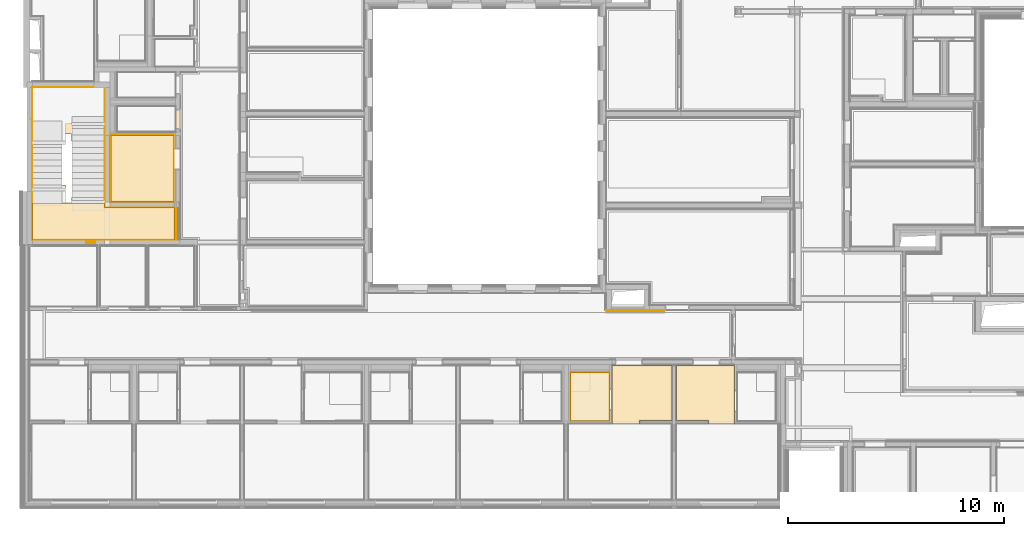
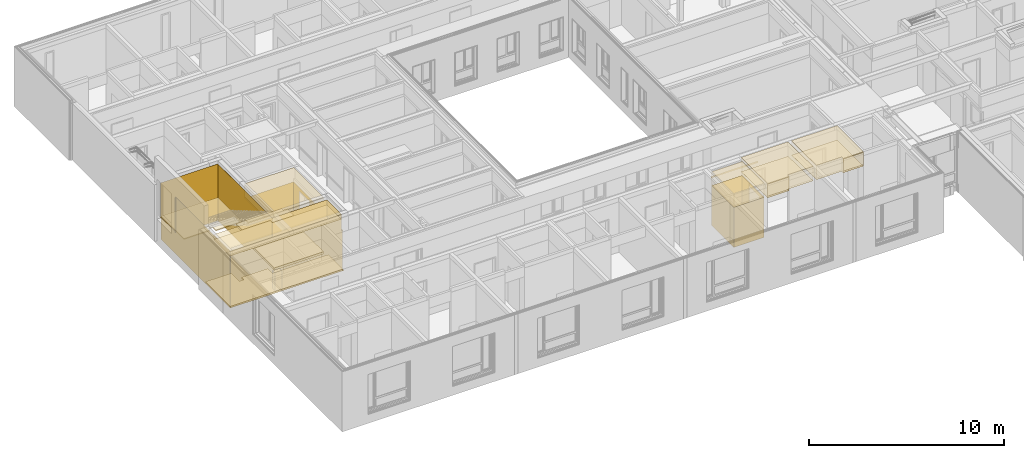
# One storey, part 158 of 222: 28 coverings.
"""IFC4 building model written with IfcOpenShell, lengths in metres."""

from ifc_helpers import new_model, entity, si_unit, converted_unit, derived_unit, frame, frame_2d, origin, origin_with_axes, place, context, subcontext, project, spatial, polyline, rectangle, outline, extrude, material, layer, layer_set, layer_usage, element, save


model = new_model("IFC4")

# Units and contexts
model_context = context("Model", 3, precision=1e-05, world=origin())
body_context = subcontext(model_context, "Body", "Model", "MODEL_VIEW")
ifc_project = project(units=[si_unit("LENGTHUNIT", "METRE"), si_unit("AREAUNIT", "SQUARE_METRE"), si_unit("VOLUMEUNIT", "CUBIC_METRE"), si_unit("MASSUNIT", "GRAM", prefix="KILO"), converted_unit("PLANEANGLEUNIT", "DEGREE", entity("IfcPlaneAngleMeasure", 0.0174532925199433), si_unit("PLANEANGLEUNIT", "RADIAN"), dimensions=[0, 0, 0, 0, 0, 0, 0]), derived_unit("THERMALTRANSMITTANCEUNIT", [(si_unit("POWERUNIT", "WATT"), 1), (si_unit("THERMODYNAMICTEMPERATUREUNIT", "KELVIN"), -1), (si_unit("LENGTHUNIT", "METRE"), -2)]), derived_unit("VOLUMETRICFLOWRATEUNIT", [(si_unit("LENGTHUNIT", "METRE"), 3), (converted_unit("TIMEUNIT", "hour", entity("IfcTimeMeasure", 3600.0), si_unit("TIMEUNIT", "SECOND"), dimensions=[0, 0, 1, 0, 0, 0, 0]), -1), (si_unit("LENGTHUNIT", "METRE"), -1)])], contexts=[model_context])

# Site, building, storey, space
site_placement = place(None, origin())
site = spatial("IfcSite", under=ifc_project, at=site_placement, Name="Psychiatrie Neubau Wunstorf", CompositionType="ELEMENT")
building_placement = place(site_placement, origin())
building = spatial("IfcBuilding", under=site, at=building_placement, Name="Neubau H2 Stationsgebäude", CompositionType="ELEMENT")
storey_placement = place(building_placement, frame((0.0, 0.0, 3.6)))
storey = spatial("IfcBuildingStorey", under=building, at=storey_placement, Name="H2 Ebene +1", CompositionType="ELEMENT", Elevation=3.6)
space_1_placement = place(storey_placement, frame((0.279999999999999, 9.8749998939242, 0.0)))
space_1 = spatial("IfcSpace", under=storey, at=space_1_placement, Name="WUN-H2-E01-T02", CompositionType="ELEMENT")

# Coverings
ifc_material_1 = material(Name="Fl12")
ifc_layer_1 = layer(ifc_material_1, 0.06)
ifc_layer_set_1 = layer_set([ifc_layer_1])
ifc_layer_usage_1 = layer_usage(ifc_layer_set_1, "AXIS3", "POSITIVE", 0.0)
covering_1_placement = place(space_1_placement, frame((0.0, 4.57999999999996, 1.405)))
element("IfcCovering", 1, at=covering_1_placement, inside=space_1, material=ifc_layer_usage_1, Name="Fliesen Großformat", PredefinedType="FLOORING", context=body_context, shape_type="SweptSolid", body=[
    extrude(outline(polyline([(3.35, 0.0), (3.35, 2.49000000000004), (0.0, 2.49000000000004), (0.0, 0.149974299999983), (1.545, 0.149974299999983), (1.545, 0.325), (1.805, 0.325), (1.805, 0.0), (3.35, 0.0)])), origin_with_axes(), (0.0, 0.0, 1.0), 0.06),
])
ifc_material_2 = material(Name="Fl12")
ifc_layer_2 = layer(ifc_material_2, 0.1)
ifc_layer_set_2 = layer_set([ifc_layer_2])
ifc_layer_usage_2 = layer_usage(ifc_layer_set_2, "AXIS3", "POSITIVE", 0.0)
covering_2_placement = place(space_1_placement, frame((0.0, -0.0300000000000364, 0.0)))
element("IfcCovering", 2, at=covering_2_placement, inside=space_1, material=ifc_layer_usage_2, Name="Fliesen Großformat", PredefinedType="FLOORING", context=body_context, shape_type="SweptSolid", body=[
    extrude(outline(polyline([(0.0, 0.03), (0.07, 0.03), (0.07, 0.0), (0.0849995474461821, 0.0), (0.0849995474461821, 1.56), (0.07, 1.56), (0.07, 1.53), (0.0, 1.53), (0.0, 0.03)])), frame((6.58099923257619, 0.0, 0.0), z_axis=(0.0, 0.0, 1.0), x_axis=(1.0, 0.0, 0.0)), (0.0, 0.0, 1.0), 0.1),
    extrude(outline(polyline([(6.5809987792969, 1.5), (3.35, 1.5), (3.35, 1.96999999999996), (1.805, 1.96999999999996), (1.805, 1.72499999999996), (1.545, 1.72499999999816), (1.545, 2.54997429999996), (0.0, 2.54997429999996), (0.0, 0.0), (6.5809987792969, 0.0), (6.5809987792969, 1.5)])), frame((0.0, 0.0300000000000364, 0.0), z_axis=(0.0, 0.0, 1.0), x_axis=(1.0, 0.0, 0.0)), (0.0, 0.0, 1.0), 0.1),
])
ifc_material_3 = material(Name="03")
ifc_layer_3 = layer(ifc_material_3, 0.001)
ifc_layer_set_3 = layer_set([ifc_layer_3])
ifc_layer_usage_3 = layer_usage(ifc_layer_set_3, "AXIS3", "POSITIVE", 0.0)
covering_3_placement = place(space_1_placement, frame((-0.035, -0.250000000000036, 0.0)))
element("IfcCovering", 3, at=covering_3_placement, inside=space_1, material=ifc_layer_usage_3, Name="Sichtbetonklasse SB3", PredefinedType="CLADDING", context=body_context, shape_type="SweptSolid", body=[
    extrude(rectangle(XDim=3.55, YDim=3.2309987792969, at=frame_2d((-1.61549938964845, -1.775), x_axis=(0.0, -1.0))), frame((3.385, 1.75000000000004, 0.0), z_axis=(0.0, -1.0, 0.0), x_axis=(-1.0, 0.0, 0.0)), (0.0, 0.0, 1.0), 0.001),
    extrude(rectangle(XDim=3.55, YDim=5.57, at=frame_2d((-2.785, -1.775), x_axis=(0.0, -1.0))), frame((3.385, 7.32000000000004, 0.0), z_axis=(-1.0, 0.0, 0.0), x_axis=(0.0, 1.0, 0.0)), (0.0, 0.0, 1.0), 0.001),
    extrude(rectangle(XDim=3.55, YDim=3.35, at=frame_2d((-1.675, -1.775), x_axis=(0.0, -1.0))), frame((0.0349999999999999, 7.32000000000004, 0.0), z_axis=(0.0, -1.0, 0.0), x_axis=(-1.0, 0.0, 0.0)), (0.0, 0.0, 1.0), 0.001),
    extrude(outline(polyline([(7.07, 3.55), (7.07, 0.0), (1.50000000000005, 0.0), (1.50000000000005, 2.19), (0.0, 2.19), (0.0, 3.55), (7.07, 3.55)])), frame((0.0350000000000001, 7.32000000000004, 3.55), z_axis=(1.0, -3.76680189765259e-17, 8.92985215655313e-17), x_axis=(-3.76680189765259e-17, -1.0, 0.0)), (0.0, 0.0, 1.0), 0.001),
    extrude(rectangle(XDim=1.12, YDim=0.42, at=frame_2d((-0.21, -0.56), x_axis=(0.0, -1.0))), frame((2.955, 0.0, 0.35), z_axis=(0.0, 1.0, 0.0), x_axis=(1.0, 0.0, 0.0)), (0.0, 0.0, 1.0), 0.001),
    extrude(outline(polyline([(6.5809987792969, 3.55), (6.5809987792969, 0.0), (0.0, 0.0), (0.0, 3.55), (6.5809987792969, 3.55)]), holes=[polyline([(2.92, 3.2), (2.5, 3.2), (2.5, 2.08), (2.92, 2.08), (2.92, 3.2)])]), frame((0.0350000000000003, 0.250000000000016, 3.55), z_axis=(-8.51600136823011e-16, 1.0, 0.0), x_axis=(1.0, 8.51600136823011e-16, 0.0)), (0.0, 0.0, 1.0), 0.001),
    extrude(rectangle(XDim=1.05, YDim=1.5, at=frame_2d((-0.75, -0.525), x_axis=(0.0, -1.0))), frame((6.6159987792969, 1.75000000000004, 2.5), z_axis=(-1.0, 3.03164900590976e-16, -4.33092715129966e-16), x_axis=(3.03164900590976e-16, 1.0, 0.0)), (0.0, 0.0, 1.0), 0.001),
    extrude(rectangle(XDim=2.19, YDim=0.0350000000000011, at=frame_2d((-0.0175000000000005, -1.095), x_axis=(0.0, -1.0))), frame((0.0, 7.32, 1.36), z_axis=(-6.75624635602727e-13, -1.0, 1.07976539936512e-14), x_axis=(-1.0, 6.75624635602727e-13, 0.0)), (0.0, 0.0, 1.0), 0.001),
    extrude(rectangle(XDim=2.19, YDim=0.035000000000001, at=frame_2d((-0.0175000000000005, -1.095), x_axis=(0.0, -1.0))), frame((0.035000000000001, 5.81999999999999, 1.36), z_axis=(0.0, 1.0, 0.0), x_axis=(1.0, 0.0, 0.0)), (0.0, 0.0, 1.0), 0.001),
    extrude(rectangle(XDim=1.12, YDim=0.25, at=frame_2d((-0.125, -0.56), x_axis=(0.0, -1.0))), frame((2.535, 0.0, 0.35), z_axis=(1.0, 0.0, 0.0), x_axis=(0.0, -1.0, 0.0)), (0.0, 0.0, 1.0), 0.001),
    extrude(rectangle(XDim=0.42, YDim=0.25, at=frame_2d((-0.21, 0.125), x_axis=(-1.0, 0.0))), frame((2.955, 0.25, 1.47), z_axis=(0.0, 0.0, -1.0), x_axis=(1.0, 0.0, 0.0)), (0.0, 0.0, 1.0), 0.001),
    extrude(rectangle(XDim=1.12, YDim=0.25, at=frame_2d((-0.125, -0.56), x_axis=(0.0, -1.0))), frame((2.955, 0.25, 0.35), z_axis=(-1.0, 0.0, 0.0), x_axis=(0.0, 1.0, 0.0)), (0.0, 0.0, 1.0), 0.001),
    extrude(rectangle(XDim=1.5, YDim=0.07, at=frame_2d((-0.035, -0.75), x_axis=(0.0, -1.0))), frame((6.68599923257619, 0.25, 2.5), z_axis=(0.0, 0.0, -1.0), x_axis=(1.0, 0.0, 0.0)), (0.0, 0.0, 1.0), 0.001),
    extrude(rectangle(XDim=2.5, YDim=0.07, at=frame_2d((-0.035, -1.25), x_axis=(0.0, -1.0))), frame((6.68599923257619, 0.25, 0.0), z_axis=(0.0, 1.0, 0.0), x_axis=(1.0, 0.0, 0.0)), (0.0, 0.0, 1.0), 0.001),
    extrude(rectangle(XDim=2.5, YDim=0.07, at=frame_2d((-0.035, -1.25), x_axis=(0.0, -1.0))), frame((6.61599923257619, 1.75, 0.0), z_axis=(0.0, -1.0, 0.0), x_axis=(-1.0, 0.0, 0.0)), (0.0, 0.0, 1.0), 0.001),
    extrude(rectangle(XDim=0.03, YDim=1.5, at=frame_2d((-0.750000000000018, -0.015), x_axis=(-1.2126596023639e-12, -1.0))), frame((6.68599923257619, 0.25, 2.5), z_axis=(1.0, 3.03164900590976e-16, 1.51582450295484e-14), x_axis=(3.03164900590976e-16, -1.0, 0.0)), (0.0, 0.0, 1.0), 0.001),
    extrude(rectangle(XDim=0.0149995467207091, YDim=1.5, at=frame_2d((0.00749977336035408, -0.75), x_axis=(1.0, 0.0))), frame((6.68599923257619, 0.250000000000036, 2.53), z_axis=(0.0, 0.0, -1.0), x_axis=(1.0, 0.0, 0.0)), (0.0, 0.0, 1.0), 0.001),
])
ifc_material_4 = material(Name="47")
ifc_layer_4 = layer(ifc_material_4, 0.001)
ifc_layer_set_4 = layer_set([ifc_layer_4])
ifc_layer_usage_4 = layer_usage(ifc_layer_set_4, "AXIS3", "POSITIVE", 0.0)
covering_4_placement = place(space_1_placement, frame((-0.035, -0.250000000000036, 0.0)))
element("IfcCovering", 4, at=covering_4_placement, inside=space_1, material=ifc_layer_usage_4, Name="Sichtbetonklasse SB3", PredefinedType="CLADDING", context=body_context, shape_type="SweptSolid", body=[
    extrude(rectangle(XDim=3.55, YDim=3.2309987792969, at=frame_2d((-1.61549938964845, -1.775), x_axis=(0.0, -1.0))), frame((3.385, 1.74900000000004, 0.0), z_axis=(0.0, -1.0, 0.0), x_axis=(-1.0, 0.0, 0.0)), (0.0, 0.0, 1.0), 0.001),
    extrude(rectangle(XDim=3.55, YDim=5.57, at=frame_2d((-2.785, -1.775), x_axis=(0.0, -1.0))), frame((3.384, 7.32000000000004, 0.0), z_axis=(-1.0, 0.0, 0.0), x_axis=(0.0, 1.0, 0.0)), (0.0, 0.0, 1.0), 0.001),
    extrude(rectangle(XDim=3.55, YDim=3.35, at=frame_2d((-1.675, -1.775), x_axis=(0.0, -1.0))), frame((0.0349999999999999, 7.31900000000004, 0.0), z_axis=(0.0, -1.0, 0.0), x_axis=(-1.0, 0.0, 0.0)), (0.0, 0.0, 1.0), 0.001),
    extrude(outline(polyline([(7.07, 3.55), (7.07, 0.0), (1.50000000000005, 0.0), (1.50000000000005, 2.19), (0.0, 2.19), (0.0, 3.55), (7.07, 3.55)])), frame((0.0360000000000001, 7.32000000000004, 3.55), z_axis=(1.0, -3.76680189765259e-17, 8.92985215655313e-17), x_axis=(-3.76680189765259e-17, -1.0, 0.0)), (0.0, 0.0, 1.0), 0.001),
    extrude(rectangle(XDim=1.12, YDim=0.42, at=frame_2d((-0.21, -0.56), x_axis=(0.0, -1.0))), frame((2.955, 0.001, 0.35), z_axis=(0.0, 1.0, 0.0), x_axis=(1.0, 0.0, 0.0)), (0.0, 0.0, 1.0), 0.001),
    extrude(outline(polyline([(6.5809987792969, 3.55), (6.5809987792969, 0.0), (0.0, 0.0), (0.0, 3.55), (6.5809987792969, 3.55)]), holes=[polyline([(2.92, 3.2), (2.5, 3.2), (2.5, 2.08), (2.92, 2.08), (2.92, 3.2)])]), frame((0.0350000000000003, 0.251000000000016, 3.55), z_axis=(-8.51600136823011e-16, 1.0, 0.0), x_axis=(1.0, 8.51600136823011e-16, 0.0)), (0.0, 0.0, 1.0), 0.001),
    extrude(rectangle(XDim=1.05, YDim=1.5, at=frame_2d((-0.75, -0.525), x_axis=(0.0, -1.0))), frame((6.6149987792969, 1.75000000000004, 2.5), z_axis=(-1.0, 3.03164900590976e-16, -4.33092715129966e-16), x_axis=(3.03164900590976e-16, 1.0, 0.0)), (0.0, 0.0, 1.0), 0.001),
    extrude(rectangle(XDim=2.19, YDim=0.0350000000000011, at=frame_2d((-0.0175000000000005, -1.095), x_axis=(0.0, -1.0))), frame((0.0, 7.319, 1.36), z_axis=(-6.75624635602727e-13, -1.0, 1.07976539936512e-14), x_axis=(-1.0, 6.75624635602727e-13, 0.0)), (0.0, 0.0, 1.0), 0.001),
    extrude(rectangle(XDim=2.19, YDim=0.035000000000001, at=frame_2d((-0.0175000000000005, -1.095), x_axis=(0.0, -1.0))), frame((0.035000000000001, 5.82099999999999, 1.36), z_axis=(0.0, 1.0, 0.0), x_axis=(1.0, 0.0, 0.0)), (0.0, 0.0, 1.0), 0.001),
    extrude(rectangle(XDim=1.12, YDim=0.25, at=frame_2d((-0.125, -0.56), x_axis=(0.0, -1.0))), frame((2.536, 0.0, 0.35), z_axis=(1.0, 0.0, 0.0), x_axis=(0.0, -1.0, 0.0)), (0.0, 0.0, 1.0), 0.001),
    extrude(rectangle(XDim=0.42, YDim=0.25, at=frame_2d((-0.21, 0.125), x_axis=(-1.0, 0.0))), frame((2.955, 0.25, 1.469), z_axis=(0.0, 0.0, -1.0), x_axis=(1.0, 0.0, 0.0)), (0.0, 0.0, 1.0), 0.001),
    extrude(rectangle(XDim=1.12, YDim=0.25, at=frame_2d((-0.125, -0.56), x_axis=(0.0, -1.0))), frame((2.954, 0.25, 0.35), z_axis=(-1.0, 0.0, 0.0), x_axis=(0.0, 1.0, 0.0)), (0.0, 0.0, 1.0), 0.001),
    extrude(rectangle(XDim=1.5, YDim=0.07, at=frame_2d((-0.035, -0.75), x_axis=(0.0, -1.0))), frame((6.68599923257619, 0.25, 2.499), z_axis=(0.0, 0.0, -1.0), x_axis=(1.0, 0.0, 0.0)), (0.0, 0.0, 1.0), 0.001),
    extrude(rectangle(XDim=2.5, YDim=0.07, at=frame_2d((-0.035, -1.25), x_axis=(0.0, -1.0))), frame((6.68599923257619, 0.251, 0.0), z_axis=(0.0, 1.0, 0.0), x_axis=(1.0, 0.0, 0.0)), (0.0, 0.0, 1.0), 0.001),
    extrude(rectangle(XDim=2.5, YDim=0.07, at=frame_2d((-0.035, -1.25), x_axis=(0.0, -1.0))), frame((6.61599923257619, 1.749, 0.0), z_axis=(0.0, -1.0, 0.0), x_axis=(-1.0, 0.0, 0.0)), (0.0, 0.0, 1.0), 0.001),
    extrude(rectangle(XDim=0.03, YDim=1.5, at=frame_2d((-0.750000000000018, -0.015), x_axis=(-1.2126596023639e-12, -1.0))), frame((6.68699923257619, 0.25, 2.5), z_axis=(1.0, 3.03164900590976e-16, 1.51582450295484e-14), x_axis=(3.03164900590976e-16, -1.0, 0.0)), (0.0, 0.0, 1.0), 0.001),
    extrude(rectangle(XDim=0.0149995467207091, YDim=1.5, at=frame_2d((0.00749977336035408, -0.75), x_axis=(1.0, 0.0))), frame((6.68599923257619, 0.250000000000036, 2.529), z_axis=(0.0, 0.0, -1.0), x_axis=(1.0, 0.0, 0.0)), (0.0, 0.0, 1.0), 0.001),
])
ifc_material_5 = material()
ifc_layer_5 = layer(ifc_material_5, 0.036)
ifc_layer_set_5 = layer_set([ifc_layer_5])
ifc_layer_usage_5 = layer_usage(ifc_layer_set_5, "AXIS3", "POSITIVE", 0.0)
covering_5_placement = place(space_1_placement, frame((0.0, 0.0, 3.55)))
element("IfcCovering", 5, at=covering_5_placement, inside=space_1, material=ifc_layer_usage_5, Name="Gipsfaserplatten 2-lagig (BSK)", PredefinedType="CEILING", context=body_context, shape_type="SweptSolid", body=[
    extrude(outline(polyline([(3.35, 0.0), (3.35, 0.219999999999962), (6.5809987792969, 0.219999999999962), (6.5809987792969, 1.71999999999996), (0.0, 1.71999999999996), (0.0, 0.0), (3.35, 0.0)])), frame((0.0, 1.71999999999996, 0.0), z_axis=(0.0, 0.0, -1.0), x_axis=(1.0, 0.0, 0.0)), (0.0, 0.0, 1.0), 0.036),
])
ifc_material_6 = material(Name="Installationshöhe")
ifc_layer_6 = layer(ifc_material_6, 0.164)
ifc_layer_set_6 = layer_set([ifc_layer_6])
ifc_layer_usage_6 = layer_usage(ifc_layer_set_6, "AXIS3", "POSITIVE", 0.0)
covering_6_placement = place(space_1_placement, frame((0.0, 0.0, 3.514)))
element("IfcCovering", 6, at=covering_6_placement, inside=space_1, material=ifc_layer_usage_6, Name="Gipsfaserplatten 2-lagig (BSK)", PredefinedType="CEILING", context=body_context, shape_type="SweptSolid", body=[
    extrude(outline(polyline([(3.35, 0.0), (3.35, 0.219999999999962), (6.5809987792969, 0.219999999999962), (6.5809987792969, 1.71999999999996), (0.0, 1.71999999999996), (0.0, 0.0), (3.35, 0.0)])), frame((0.0, 1.71999999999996, 0.0), z_axis=(0.0, 0.0, -1.0), x_axis=(1.0, 0.0, 0.0)), (0.0, 0.0, 1.0), 0.164),
])
ifc_material_7 = material(Name="A1")
ifc_layer_7 = layer(ifc_material_7, 0.1)
ifc_layer_set_7 = layer_set([ifc_layer_7])
ifc_layer_usage_7 = layer_usage(ifc_layer_set_7, "AXIS3", "POSITIVE", 0.0)
covering_7_placement = place(space_1_placement, frame((0.0, 0.0, 3.35)))
element("IfcCovering", 7, at=covering_7_placement, inside=space_1, material=ifc_layer_usage_7, Name="Gipsfaserplatten 2-lagig (BSK)", PredefinedType="CEILING", context=body_context, shape_type="SweptSolid", body=[
    extrude(outline(polyline([(3.35, 0.0), (3.35, 0.219999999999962), (6.5809987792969, 0.219999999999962), (6.5809987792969, 1.71999999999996), (0.0, 1.71999999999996), (0.0, 0.0), (3.35, 0.0)])), frame((0.0, 1.71999999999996, 0.0), z_axis=(0.0, 0.0, -1.0), x_axis=(1.0, 0.0, 0.0)), (0.0, 0.0, 1.0), 0.1),
])
ifc_material_8 = material(Name="D1")
ifc_layer_8 = layer(ifc_material_8, 0.001)
ifc_layer_set_8 = layer_set([ifc_layer_8])
ifc_layer_usage_8 = layer_usage(ifc_layer_set_8, "AXIS3", "POSITIVE", 0.0)
covering_8_placement = place(space_1_placement, frame((0.0, 0.0, 3.25)))
element("IfcCovering", 8, at=covering_8_placement, inside=space_1, material=ifc_layer_usage_8, Name="Gipsfaserplatten 2-lagig (BSK)", PredefinedType="CEILING", context=body_context, shape_type="SweptSolid", body=[
    extrude(outline(polyline([(3.35, 0.0), (3.35, 0.219999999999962), (6.5809987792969, 0.219999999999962), (6.5809987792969, 1.71999999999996), (0.0, 1.71999999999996), (0.0, 0.0), (3.35, 0.0)])), frame((0.0, 1.71999999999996, 0.0), z_axis=(0.0, 0.0, -1.0), x_axis=(1.0, 0.0, 0.0)), (0.0, 0.0, 1.0), 0.001),
])

# Space
space_2_placement = place(storey_placement, frame((0.168999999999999, 4.33074963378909, 0.0)))
space_2 = spatial("IfcSpace", under=storey, at=space_2_placement, Name="WUN-H2-E01-073", CompositionType="ELEMENT")

# Covering
ifc_material_9 = material(Name="97")
ifc_layer_9 = layer(ifc_material_9, 0.001)
ifc_layer_set_9 = layer_set([ifc_layer_9])
ifc_layer_usage_9 = layer_usage(ifc_layer_set_9, "AXIS3", "POSITIVE", 0.0)
covering_9_placement = place(space_2_placement, frame((26.6510003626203, 2.28125036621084, 0.8)))
element("IfcCovering", 9, at=covering_9_placement, inside=space_2, material=ifc_layer_usage_9, Name="Handlauf", PredefinedType="CLADDING", context=body_context, shape_type="SweptSolid", body=[
    extrude(rectangle(XDim=0.1, YDim=2.75999963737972, at=frame_2d((1.37999981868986, 0.05), x_axis=(0.0, 1.0))), frame((2.75999963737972, 0.0, 0.1), z_axis=(-1.18629759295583e-14, -1.0, 0.0), x_axis=(-1.0, 1.18629759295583e-14, 0.0)), (0.0, 0.0, 1.0), 0.001),
])

# Space
space_3_placement = place(storey_placement, frame((30.1, -2.16399999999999, 0.0)))
space_3 = spatial("IfcSpace", under=storey, at=space_3_placement, Name="WUN-H2-E01-019", CompositionType="ELEMENT")

# Coverings
ifc_material_10 = material()
ifc_layer_10 = layer(ifc_material_10, 0.036)
ifc_layer_set_10 = layer_set([ifc_layer_10])
ifc_layer_usage_10 = layer_usage(ifc_layer_set_10, "AXIS3", "POSITIVE", 0.0)
covering_10_placement = place(space_3_placement, frame((0.0, 3.52274963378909, 3.55)))
element("IfcCovering", 10, at=covering_10_placement, inside=space_3, material=ifc_layer_usage_10, Name="Gipsfaserplatten 2-lagig (BSK)", PredefinedType="CEILING", context=body_context, shape_type="SweptSolid", body=[
    extrude(outline(polyline([(2.6925, 0.0), (2.6925, 2.69999999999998), (1.5, 2.69999999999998), (1.5, 2.54999999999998), (0.0, 2.54999999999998), (0.0, 0.0), (2.6925, 0.0)])), frame((0.0, 2.69999999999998, 0.0), z_axis=(0.0, 0.0, -1.0), x_axis=(1.0, 0.0, 0.0)), (0.0, 0.0, 1.0), 0.036),
])
ifc_material_11 = material(Name="Installationshöhe")
ifc_layer_11 = layer(ifc_material_11, 0.764)
ifc_layer_set_11 = layer_set([ifc_layer_11])
ifc_layer_usage_11 = layer_usage(ifc_layer_set_11, "AXIS3", "POSITIVE", 0.0)
covering_11_placement = place(space_3_placement, frame((0.0, 3.52274963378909, 3.514)))
element("IfcCovering", 11, at=covering_11_placement, inside=space_3, material=ifc_layer_usage_11, Name="Gipsfaserplatten 2-lagig (BSK)", PredefinedType="CEILING", context=body_context, shape_type="SweptSolid", body=[
    extrude(outline(polyline([(2.6925, 0.0), (2.6925, 2.69999999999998), (1.5, 2.69999999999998), (1.5, 2.54999999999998), (0.0, 2.54999999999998), (0.0, 0.0), (2.6925, 0.0)])), frame((0.0, 2.69999999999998, 0.0), z_axis=(0.0, 0.0, -1.0), x_axis=(1.0, 0.0, 0.0)), (0.0, 0.0, 1.0), 0.764),
])
ifc_material_12 = material(Name="A1")
ifc_layer_12 = layer(ifc_material_12, 0.1)
ifc_layer_set_12 = layer_set([ifc_layer_12])
ifc_layer_usage_12 = layer_usage(ifc_layer_set_12, "AXIS3", "POSITIVE", 0.0)
covering_12_placement = place(space_3_placement, frame((0.0, 3.52274963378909, 2.75)))
element("IfcCovering", 12, at=covering_12_placement, inside=space_3, material=ifc_layer_usage_12, Name="Gipsfaserplatten 2-lagig (BSK)", PredefinedType="CEILING", context=body_context, shape_type="SweptSolid", body=[
    extrude(outline(polyline([(2.6925, 0.0), (2.6925, 2.69999999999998), (1.5, 2.69999999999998), (1.5, 2.54999999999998), (0.0, 2.54999999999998), (0.0, 0.0), (2.6925, 0.0)])), frame((0.0, 2.69999999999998, 0.0), z_axis=(0.0, 0.0, -1.0), x_axis=(1.0, 0.0, 0.0)), (0.0, 0.0, 1.0), 0.1),
])
ifc_material_13 = material(Name="D1")
ifc_layer_13 = layer(ifc_material_13, 0.001)
ifc_layer_set_13 = layer_set([ifc_layer_13])
ifc_layer_usage_13 = layer_usage(ifc_layer_set_13, "AXIS3", "POSITIVE", 0.0)
covering_13_placement = place(space_3_placement, frame((0.0, 3.52274963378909, 2.65)))
element("IfcCovering", 13, at=covering_13_placement, inside=space_3, material=ifc_layer_usage_13, Name="Gipsfaserplatten 2-lagig (BSK)", PredefinedType="CEILING", context=body_context, shape_type="SweptSolid", body=[
    extrude(outline(polyline([(2.6925, 0.0), (2.6925, 2.69999999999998), (1.5, 2.69999999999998), (1.5, 2.54999999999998), (0.0, 2.54999999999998), (0.0, 0.0), (2.6925, 0.0)])), frame((0.0, 2.69999999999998, 0.0), z_axis=(0.0, 0.0, -1.0), x_axis=(1.0, 0.0, 0.0)), (0.0, 0.0, 1.0), 0.001),
])

# Space
space_4_placement = place(storey_placement, frame((25.1, -2.16399999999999, 0.0)))
space_4 = spatial("IfcSpace", under=storey, at=space_4_placement, Name="WUN-H2-E01-020", CompositionType="ELEMENT")

# Coverings
ifc_material_14 = material()
ifc_layer_14 = layer(ifc_material_14, 0.036)
ifc_layer_set_14 = layer_set([ifc_layer_14])
ifc_layer_usage_14 = layer_usage(ifc_layer_set_14, "AXIS3", "POSITIVE", 0.0)
covering_14_placement = place(space_4_placement, frame((2.025, 3.5227496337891, 3.55)))
element("IfcCovering", 14, at=covering_14_placement, inside=space_4, material=ifc_layer_usage_14, Name="Gipsfaserplatten 2-lagig (BSK)", PredefinedType="CEILING", context=body_context, shape_type="SweptSolid", body=[
    extrude(outline(polyline([(0.0, 0.0), (2.77500000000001, 0.0), (2.775, 2.54999999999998), (1.275, 2.54999999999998), (1.27499999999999, 2.69999999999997), (0.0, 2.69999999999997), (0.0, 0.0)])), frame((0.0, 2.69999999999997, 0.0), z_axis=(0.0, 0.0, -1.0), x_axis=(1.0, 0.0, 0.0)), (0.0, 0.0, 1.0), 0.036),
])
ifc_material_15 = material(Name="Installationshöhe")
ifc_layer_15 = layer(ifc_material_15, 0.764)
ifc_layer_set_15 = layer_set([ifc_layer_15])
ifc_layer_usage_15 = layer_usage(ifc_layer_set_15, "AXIS3", "POSITIVE", 0.0)
covering_15_placement = place(space_4_placement, frame((2.025, 3.5227496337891, 3.514)))
element("IfcCovering", 15, at=covering_15_placement, inside=space_4, material=ifc_layer_usage_15, Name="Gipsfaserplatten 2-lagig (BSK)", PredefinedType="CEILING", context=body_context, shape_type="SweptSolid", body=[
    extrude(outline(polyline([(0.0, 0.0), (2.77500000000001, 0.0), (2.775, 2.54999999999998), (1.275, 2.54999999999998), (1.27499999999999, 2.69999999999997), (0.0, 2.69999999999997), (0.0, 0.0)])), frame((0.0, 2.69999999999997, 0.0), z_axis=(0.0, 0.0, -1.0), x_axis=(1.0, 0.0, 0.0)), (0.0, 0.0, 1.0), 0.764),
])
ifc_material_16 = material(Name="A1")
ifc_layer_16 = layer(ifc_material_16, 0.1)
ifc_layer_set_16 = layer_set([ifc_layer_16])
ifc_layer_usage_16 = layer_usage(ifc_layer_set_16, "AXIS3", "POSITIVE", 0.0)
covering_16_placement = place(space_4_placement, frame((2.025, 3.5227496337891, 2.75)))
element("IfcCovering", 16, at=covering_16_placement, inside=space_4, material=ifc_layer_usage_16, Name="Gipsfaserplatten 2-lagig (BSK)", PredefinedType="CEILING", context=body_context, shape_type="SweptSolid", body=[
    extrude(outline(polyline([(0.0, 0.0), (2.77500000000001, 0.0), (2.775, 2.54999999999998), (1.275, 2.54999999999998), (1.27499999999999, 2.69999999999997), (0.0, 2.69999999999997), (0.0, 0.0)])), frame((0.0, 2.69999999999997, 0.0), z_axis=(0.0, 0.0, -1.0), x_axis=(1.0, 0.0, 0.0)), (0.0, 0.0, 1.0), 0.1),
])
ifc_material_17 = material(Name="D1")
ifc_layer_17 = layer(ifc_material_17, 0.001)
ifc_layer_set_17 = layer_set([ifc_layer_17])
ifc_layer_usage_17 = layer_usage(ifc_layer_set_17, "AXIS3", "POSITIVE", 0.0)
covering_17_placement = place(space_4_placement, frame((2.025, 3.5227496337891, 2.65)))
element("IfcCovering", 17, at=covering_17_placement, inside=space_4, material=ifc_layer_usage_17, Name="Gipsfaserplatten 2-lagig (BSK)", PredefinedType="CEILING", context=body_context, shape_type="SweptSolid", body=[
    extrude(outline(polyline([(0.0, 0.0), (2.77500000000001, 0.0), (2.775, 2.54999999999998), (1.275, 2.54999999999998), (1.27499999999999, 2.69999999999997), (0.0, 2.69999999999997), (0.0, 0.0)])), frame((0.0, 2.69999999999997, 0.0), z_axis=(0.0, 0.0, -1.0), x_axis=(1.0, 0.0, 0.0)), (0.0, 0.0, 1.0), 0.001),
])

# Space
space_5_placement = place(storey_placement, frame((25.2, 1.48374963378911, 0.0)))
space_5 = spatial("IfcSpace", under=storey, at=space_5_placement, Name="WUN-H2-E01-020a", CompositionType="ELEMENT")

# Coverings
ifc_material_18 = material(Name="Installationshöhe")
ifc_layer_18 = layer(ifc_material_18, 0.764)
ifc_layer_set_18 = layer_set([ifc_layer_18])
ifc_layer_usage_18 = layer_usage(ifc_layer_set_18, "AXIS3", "POSITIVE", 0.0)
covering_18_placement = place(space_5_placement, frame((0.0, 0.0, 3.514)))
element("IfcCovering", 18, at=covering_18_placement, inside=space_5, material=ifc_layer_usage_18, Name="Gipsfaserplatten 2-lagig (BSK)", PredefinedType="CEILING", context=body_context, shape_type="SweptSolid", body=[
    extrude(rectangle(XDim=1.8, YDim=2.265, at=frame_2d((0.9, 1.1325), x_axis=(1.0, 0.0))), frame((0.0, 2.265, 0.0), z_axis=(0.0, 0.0, -1.0), x_axis=(1.0, 0.0, 0.0)), (0.0, 0.0, 1.0), 0.764),
])
ifc_material_19 = material(Name="B")
ifc_layer_19 = layer(ifc_material_19, 0.1)
ifc_layer_set_19 = layer_set([ifc_layer_19])
ifc_layer_usage_19 = layer_usage(ifc_layer_set_19, "AXIS3", "POSITIVE", 0.0)
covering_19_placement = place(space_5_placement, frame((0.0, 0.0, 2.75)))
element("IfcCovering", 19, at=covering_19_placement, inside=space_5, material=ifc_layer_usage_19, Name="Gipskarton, imprägniert", PredefinedType="CEILING", context=body_context, shape_type="SweptSolid", body=[
    extrude(rectangle(XDim=1.8, YDim=2.265, at=frame_2d((0.9, 1.1325), x_axis=(1.0, 0.0))), frame((0.0, 2.265, 0.0), z_axis=(0.0, 0.0, -1.0), x_axis=(1.0, 0.0, 0.0)), (0.0, 0.0, 1.0), 0.1),
])
ifc_material_20 = material(Name="D1")
ifc_layer_20 = layer(ifc_material_20, 0.001)
ifc_layer_set_20 = layer_set([ifc_layer_20])
ifc_layer_usage_20 = layer_usage(ifc_layer_set_20, "AXIS3", "POSITIVE", 0.0)
covering_20_placement = place(space_5_placement, frame((0.0, 0.0, 2.65)))
element("IfcCovering", 20, at=covering_20_placement, inside=space_5, material=ifc_layer_usage_20, Name="Gipsfaserplatten 2-lagig (BSK)", PredefinedType="CEILING", context=body_context, shape_type="SweptSolid", body=[
    extrude(rectangle(XDim=1.8, YDim=2.265, at=frame_2d((0.9, 1.1325), x_axis=(1.0, 0.0))), frame((0.0, 2.265, 0.0), z_axis=(0.0, 0.0, -1.0), x_axis=(1.0, 0.0, 0.0)), (0.0, 0.0, 1.0), 0.001),
])
ifc_material_21 = material(Name="50")
ifc_layer_21 = layer(ifc_material_21, 0.001)
ifc_layer_set_21 = layer_set([ifc_layer_21])
ifc_layer_usage_21 = layer_usage(ifc_layer_set_21, "AXIS3", "POSITIVE", 0.0)
covering_21_placement = place(space_5_placement, frame((0.0, 0.0, 0.15)))
element("IfcCovering", 21, at=covering_21_placement, inside=space_5, material=ifc_layer_usage_21, PredefinedType="CLADDING", context=body_context, shape_type="SweptSolid", body=[
    extrude(rectangle(XDim=1.8, YDim=2.5, at=frame_2d((0.9, -1.25), x_axis=(1.0, 0.0))), frame((0.0, 0.0, 0.0), z_axis=(0.0, 1.0, 0.0), x_axis=(1.0, 0.0, 0.0)), (0.0, 0.0, 1.0), 0.001),
    extrude(outline(polyline([(0.0, 2.5), (0.500000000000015, 2.5), (0.500000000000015, 0.24), (1.51000000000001, 0.24), (1.51000000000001, 2.5), (1.52500000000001, 2.5), (1.52500000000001, 0.0), (0.0, 0.0), (0.0, 2.5)])), frame((1.8, 0.0, 2.5), z_axis=(-1.0, 0.0, 0.0), x_axis=(0.0, 1.0, 0.0)), (0.0, 0.0, 1.0), 0.001),
])
ifc_material_22 = material(Name="68")
ifc_layer_22 = layer(ifc_material_22, 0.01)
ifc_layer_set_22 = layer_set([ifc_layer_22])
ifc_layer_usage_22 = layer_usage(ifc_layer_set_22, "AXIS3", "POSITIVE", 0.0)
covering_22_placement = place(space_5_placement, frame((0.0, 0.0, 0.15)))
element("IfcCovering", 22, at=covering_22_placement, inside=space_5, material=ifc_layer_usage_22, Name="a-sh Wandbelag", PredefinedType="CLADDING", context=body_context, shape_type="SweptSolid", body=[
    extrude(rectangle(XDim=0.739999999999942, YDim=2.5, at=frame_2d((0.369999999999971, -1.25), x_axis=(1.0, 0.0))), frame((1.79999999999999, 1.52500000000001, 0.0), z_axis=(-1.0, 0.0, 0.0), x_axis=(0.0, 1.0, 0.0)), (0.0, 0.0, 1.0), 0.01),
    extrude(rectangle(XDim=2.26499999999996, YDim=2.5, at=frame_2d((1.13249999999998, -1.25), x_axis=(1.0, 0.0))), frame((0.0, 2.26499999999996, 0.0), z_axis=(1.0, 0.0, 0.0), x_axis=(0.0, -1.0, 0.0)), (0.0, 0.0, 1.0), 0.01),
    extrude(rectangle(XDim=1.79999999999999, YDim=2.5, at=frame_2d((0.899999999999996, -1.25), x_axis=(1.0, 0.0))), frame((1.79999999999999, 2.26499999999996, 0.0), z_axis=(0.0, -1.0, 0.0), x_axis=(-1.0, 0.0, 0.0)), (0.0, 0.0, 1.0), 0.01),
])

# Space
space_6_placement = place(storey_placement, frame((3.90999963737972, 11.6549995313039, 0.0)))
space_6 = spatial("IfcSpace", under=storey, at=space_6_placement, Name="WUN-H2-E01-029", CompositionType="ELEMENT")

# Coverings
ifc_material_23 = material(Name="Ku3")
ifc_layer_23 = layer(ifc_material_23, 0.15)
ifc_layer_set_23 = layer_set([ifc_layer_23])
ifc_layer_usage_23 = layer_usage(ifc_layer_set_23, "AXIS3", "POSITIVE", 0.0)
covering_23_placement = place(space_6_placement, origin())
element("IfcCovering", 23, at=covering_23_placement, inside=space_6, material=ifc_layer_usage_23, Name="PVC", PredefinedType="FLOORING", context=body_context, shape_type="SweptSolid", body=[
    extrude(rectangle(XDim=3.07001368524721, YDim=2.92399914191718, at=frame_2d((-1.46199957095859, 1.53500684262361), x_axis=(2.96251025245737e-16, 1.0))), frame((2.92399914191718, 0.0, 0.0), z_axis=(0.0, 0.0, 1.0), x_axis=(1.0, 0.0, 0.0)), (0.0, 0.0, 1.0), 0.15),
])
ifc_material_24 = material()
ifc_layer_24 = layer(ifc_material_24, 0.036)
ifc_layer_set_24 = layer_set([ifc_layer_24])
ifc_layer_usage_24 = layer_usage(ifc_layer_set_24, "AXIS3", "POSITIVE", 0.0)
covering_24_placement = place(space_6_placement, frame((0.0, 0.0, 3.55)))
element("IfcCovering", 24, at=covering_24_placement, inside=space_6, material=ifc_layer_usage_24, Name="Gipsfaserplatten 2-lagig (BSK)", PredefinedType="CEILING", context=body_context, shape_type="SweptSolid", body=[
    extrude(rectangle(XDim=3.07001368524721, YDim=2.92399914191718, at=frame_2d((-1.46199957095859, 1.5350068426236), x_axis=(-2.96251025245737e-16, 1.0))), frame((2.92399914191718, 3.07001368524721, 0.0), z_axis=(0.0, 0.0, -1.0), x_axis=(1.0, 0.0, 0.0)), (0.0, 0.0, 1.0), 0.036),
])
ifc_material_25 = material(Name="Installationshöhe")
ifc_layer_25 = layer(ifc_material_25, 0.764)
ifc_layer_set_25 = layer_set([ifc_layer_25])
ifc_layer_usage_25 = layer_usage(ifc_layer_set_25, "AXIS3", "POSITIVE", 0.0)
covering_25_placement = place(space_6_placement, frame((0.0, 0.0, 3.514)))
element("IfcCovering", 25, at=covering_25_placement, inside=space_6, material=ifc_layer_usage_25, Name="Gipsfaserplatten 2-lagig (BSK)", PredefinedType="CEILING", context=body_context, shape_type="SweptSolid", body=[
    extrude(rectangle(XDim=3.07001368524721, YDim=2.92399914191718, at=frame_2d((-1.46199957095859, 1.5350068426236), x_axis=(-2.96251025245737e-16, 1.0))), frame((2.92399914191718, 3.07001368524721, 0.0), z_axis=(0.0, 0.0, -1.0), x_axis=(1.0, 0.0, 0.0)), (0.0, 0.0, 1.0), 0.764),
])
ifc_material_26 = material(Name="E3")
ifc_layer_26 = layer(ifc_material_26, 0.1)
ifc_layer_set_26 = layer_set([ifc_layer_26])
ifc_layer_usage_26 = layer_usage(ifc_layer_set_26, "AXIS3", "POSITIVE", 0.0)
covering_26_placement = place(space_6_placement, frame((0.0, 0.0, 2.75)))
element("IfcCovering", 26, at=covering_26_placement, inside=space_6, material=ifc_layer_usage_26, Name="Rasterdecke", PredefinedType="CEILING", context=body_context, shape_type="SweptSolid", body=[
    extrude(rectangle(XDim=3.07001368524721, YDim=2.92399914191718, at=frame_2d((-1.46199957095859, 1.5350068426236), x_axis=(-2.96251025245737e-16, 1.0))), frame((2.92399914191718, 3.07001368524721, 0.0), z_axis=(0.0, 0.0, -1.0), x_axis=(1.0, 0.0, 0.0)), (0.0, 0.0, 1.0), 0.1),
])
ifc_material_27 = material(Name="50")
ifc_layer_27 = layer(ifc_material_27, 0.001)
ifc_layer_set_27 = layer_set([ifc_layer_27])
ifc_layer_usage_27 = layer_usage(ifc_layer_set_27, "AXIS3", "POSITIVE", 0.0)
covering_27_placement = place(space_6_placement, frame((0.0, 0.0, 0.15)))
element("IfcCovering", 27, at=covering_27_placement, inside=space_6, material=ifc_layer_usage_27, PredefinedType="CLADDING", context=body_context, shape_type="SweptSolid", body=[
    extrude(rectangle(XDim=3.07001368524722, YDim=2.5, at=frame_2d((1.53500684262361, -1.25), x_axis=(1.0, 0.0))), frame((0.0, 3.07001368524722, 0.0), z_axis=(1.0, 0.0, 0.0), x_axis=(0.0, -1.0, 0.0)), (0.0, 0.0, 1.0), 0.001),
    extrude(rectangle(XDim=2.92399914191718, YDim=2.5, at=frame_2d((1.46199957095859, -1.25), x_axis=(1.0, 0.0))), frame((0.0, 0.0, 0.0), z_axis=(0.0, 1.0, 0.0), x_axis=(1.0, 0.0, 0.0)), (0.0, 0.0, 1.0), 0.001),
    extrude(outline(polyline([(0.0, 2.5), (1.46000036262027, 2.5), (1.46000036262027, 0.24), (2.47000036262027, 0.24), (2.47000036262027, 2.5), (3.07001368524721, 2.5), (3.07001368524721, 0.0), (0.0, 0.0), (0.0, 2.5)])), frame((2.92399914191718, 0.0, 2.5), z_axis=(-1.0, 2.59685447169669e-16, -1.88532326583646e-16), x_axis=(2.59685447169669e-16, 1.0, 0.0)), (0.0, 0.0, 1.0), 0.001),
    extrude(rectangle(XDim=2.92399914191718, YDim=2.5, at=frame_2d((1.46199957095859, -1.25), x_axis=(1.0, 0.0))), frame((2.92399914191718, 3.07001368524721, 0.0), z_axis=(-1.86626874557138e-15, -1.0, 0.0), x_axis=(-1.0, 1.86626874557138e-15, 0.0)), (0.0, 0.0, 1.0), 0.001),
])

# Space
space_7_placement = place(storey_placement, frame((4.19, 14.8750132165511, 0.0)))
space_7 = spatial("IfcSpace", under=storey, at=space_7_placement, Name="WUN-H2-E01-030", CompositionType="ELEMENT")

# Covering
ifc_material_28 = material(Name="Fl1")
ifc_layer_28 = layer(ifc_material_28, 0.15)
ifc_layer_set_28 = layer_set([ifc_layer_28])
ifc_layer_usage_28 = layer_usage(ifc_layer_set_28, "AXIS3", "POSITIVE", 0.0)
covering_28_placement = place(space_7_placement, origin())
element("IfcCovering", 28, at=covering_28_placement, inside=space_7, material=ifc_layer_usage_28, Name="Fliesen", PredefinedType="FLOORING", context=body_context, shape_type="SweptSolid", body=[
    extrude(rectangle(XDim=0.232, YDim=0.885, at=frame_2d((0.116, 0.4425), x_axis=(1.0, 0.0))), frame((2.71899877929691, 0.15, 0.0), z_axis=(0.0, 0.0, 1.0), x_axis=(1.0, 0.0, 0.0)), (0.0, 0.0, 1.0), 0.15),
    extrude(rectangle(XDim=1.20200000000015, YDim=2.7189987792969, at=frame_2d((-1.35949938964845, 0.601000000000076), x_axis=(0.0, 1.0))), frame((2.7189987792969, 0.0, 0.0), z_axis=(0.0, 0.0, 1.0), x_axis=(1.0, 0.0, 0.0)), (0.0, 0.0, 1.0), 0.15),
])

save(model, "model.ifc")
